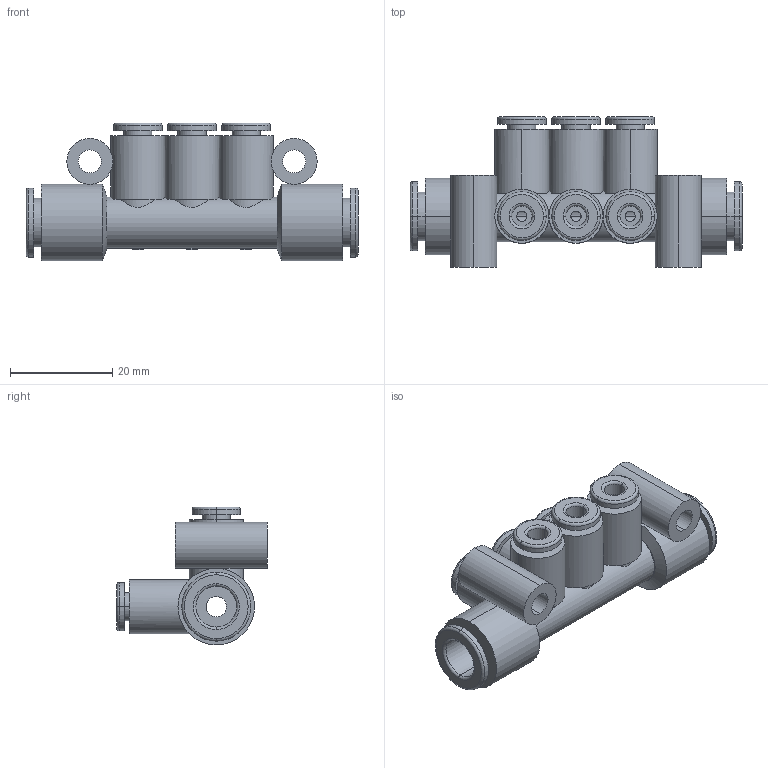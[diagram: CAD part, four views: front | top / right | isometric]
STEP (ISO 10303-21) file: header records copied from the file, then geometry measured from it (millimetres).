
FILE_DESCRIPTION (( 'STEP AP214' ), '1' );
FILE_NAME ('KM11-04-08-6.step.step', '2023-01-01T01:22:47', ( '' ), ( '' ), 'SwSTEP 2.0', 'SolidWorks 2022', '' );
FILE_SCHEMA (( 'AUTOMOTIVE_DESIGN' ));
Length unit declared in the file: millimetre
Products named in the file (2): KM11-04-08-6.step; KM11-04-08-6.step_KM3070 Body_11-04-08-6
Assembly tree (1 placements, depth 2):
  KM11-04-08-6.step
    KM11-04-08-6.step_KM3070 Body_11-04-08-6
Bounding box: 65 x 29.5 x 27 mm (x, y, z)
Volume: 13295.4 mm3; surface area: 11049.1 mm2
Topology: 1 solids, 1 shells, 189 faces, 478 edges, 307 vertices
Faces by surface type: cylinder 107, plane 46, torus 32, cone 4
Entity records: 6505 total; most frequent: CARTESIAN_POINT 1743, DIRECTION 1053, ORIENTED_EDGE 956, EDGE_CURVE 478, AXIS2_PLACEMENT_3D 457, VERTEX_POINT 307, CIRCLE 264, EDGE_LOOP 233
